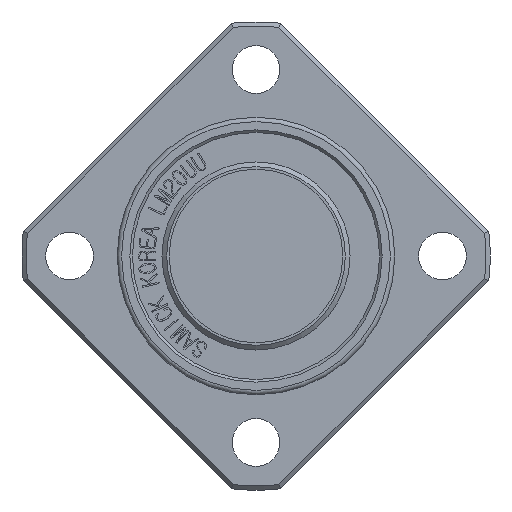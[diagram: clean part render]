
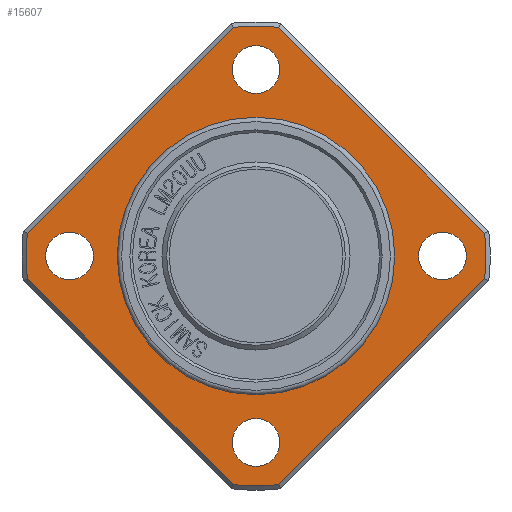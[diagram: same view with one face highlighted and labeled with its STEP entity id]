
A CAD part, front view. The second image highlights one B-rep face of the part: STEP entity #15607.
In plain terms, the highlighted planar face has unit normal (0, -1, 0).
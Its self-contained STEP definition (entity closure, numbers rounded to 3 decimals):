
#2209=FACE_BOUND('',#3238,.T.);
#2210=FACE_BOUND('',#3239,.T.);
#2211=FACE_BOUND('',#3240,.T.);
#2212=FACE_BOUND('',#3241,.T.);
#2213=FACE_BOUND('',#3242,.T.);
#2274=CIRCLE('',#16488,26.5);
#2277=CIRCLE('',#16496,26.5);
#2278=CIRCLE('',#16497,26.5);
#2279=CIRCLE('',#16498,26.5);
#2280=CIRCLE('',#16499,2.75);
#2281=CIRCLE('',#16500,2.75);
#2282=CIRCLE('',#16501,2.75);
#2283=CIRCLE('',#16502,2.75);
#2284=CIRCLE('',#16503,16.);
#2285=CIRCLE('',#16504,16.);
#2373=FACE_OUTER_BOUND('',#3237,.T.);
#3237=EDGE_LOOP('',(#10533,#10534,#10535,#10536,#10537,#10538,#10539,#10540));
#3238=EDGE_LOOP('',(#10541));
#3239=EDGE_LOOP('',(#10542));
#3240=EDGE_LOOP('',(#10543));
#3241=EDGE_LOOP('',(#10544));
#3242=EDGE_LOOP('',(#10545,#10546));
#4159=LINE('',#18701,#5303);
#4165=LINE('',#18745,#5309);
#4167=LINE('',#18751,#5311);
#4168=LINE('',#18755,#5312);
#5303=VECTOR('',#16843,10.);
#5309=VECTOR('',#16867,10.);
#5311=VECTOR('',#16873,10.);
#5312=VECTOR('',#16876,10.);
#6464=VERTEX_POINT('',#18696);
#6465=VERTEX_POINT('',#18700);
#6468=VERTEX_POINT('',#18710);
#6476=VERTEX_POINT('',#18741);
#6477=VERTEX_POINT('',#18748);
#6478=VERTEX_POINT('',#18750);
#6479=VERTEX_POINT('',#18752);
#6480=VERTEX_POINT('',#18754);
#6481=VERTEX_POINT('',#18757);
#6482=VERTEX_POINT('',#18759);
#6483=VERTEX_POINT('',#18761);
#6484=VERTEX_POINT('',#18763);
#6485=VERTEX_POINT('',#18765);
#6486=VERTEX_POINT('',#18766);
#8084=EDGE_CURVE('',#6464,#6465,#4159,.T.);
#8089=EDGE_CURVE('',#6464,#6468,#2274,.T.);
#8100=EDGE_CURVE('',#6476,#6468,#4165,.T.);
#8102=EDGE_CURVE('',#6476,#6477,#2277,.T.);
#8103=EDGE_CURVE('',#6478,#6477,#4167,.T.);
#8104=EDGE_CURVE('',#6478,#6479,#2278,.T.);
#8105=EDGE_CURVE('',#6480,#6479,#4168,.T.);
#8106=EDGE_CURVE('',#6480,#6465,#2279,.T.);
#8107=EDGE_CURVE('',#6481,#6481,#2280,.T.);
#8108=EDGE_CURVE('',#6482,#6482,#2281,.T.);
#8109=EDGE_CURVE('',#6483,#6483,#2282,.T.);
#8110=EDGE_CURVE('',#6484,#6484,#2283,.T.);
#8111=EDGE_CURVE('',#6485,#6486,#2284,.T.);
#8112=EDGE_CURVE('',#6486,#6485,#2285,.T.);
#10533=ORIENTED_EDGE('',*,*,#8084,.F.);
#10534=ORIENTED_EDGE('',*,*,#8089,.T.);
#10535=ORIENTED_EDGE('',*,*,#8100,.F.);
#10536=ORIENTED_EDGE('',*,*,#8102,.T.);
#10537=ORIENTED_EDGE('',*,*,#8103,.F.);
#10538=ORIENTED_EDGE('',*,*,#8104,.T.);
#10539=ORIENTED_EDGE('',*,*,#8105,.F.);
#10540=ORIENTED_EDGE('',*,*,#8106,.T.);
#10541=ORIENTED_EDGE('',*,*,#8107,.T.);
#10542=ORIENTED_EDGE('',*,*,#8108,.T.);
#10543=ORIENTED_EDGE('',*,*,#8109,.T.);
#10544=ORIENTED_EDGE('',*,*,#8110,.T.);
#10545=ORIENTED_EDGE('',*,*,#8111,.F.);
#10546=ORIENTED_EDGE('',*,*,#8112,.F.);
#15365=PLANE('',#16495);
#15607=ADVANCED_FACE('',(#2373,#2209,#2210,#2211,#2212,#2213),#15365,.T.);
#16488=AXIS2_PLACEMENT_3D('',#18714,#16849,#16850);
#16495=AXIS2_PLACEMENT_3D('',#18747,#16869,#16870);
#16496=AXIS2_PLACEMENT_3D('',#18749,#16871,#16872);
#16497=AXIS2_PLACEMENT_3D('',#18753,#16874,#16875);
#16498=AXIS2_PLACEMENT_3D('',#18756,#16877,#16878);
#16499=AXIS2_PLACEMENT_3D('',#18758,#16879,#16880);
#16500=AXIS2_PLACEMENT_3D('',#18760,#16881,#16882);
#16501=AXIS2_PLACEMENT_3D('',#18762,#16883,#16884);
#16502=AXIS2_PLACEMENT_3D('',#18764,#16885,#16886);
#16503=AXIS2_PLACEMENT_3D('',#18767,#16887,#16888);
#16504=AXIS2_PLACEMENT_3D('',#18768,#16889,#16890);
#16843=DIRECTION('',(0.707,0.,-0.707));
#16849=DIRECTION('center_axis',(0.,-1.,0.));
#16850=DIRECTION('ref_axis',(1.,0.,0.));
#16867=DIRECTION('',(0.707,0.,0.707));
#16869=DIRECTION('center_axis',(0.,-1.,0.));
#16870=DIRECTION('ref_axis',(0.,0.,-1.));
#16871=DIRECTION('center_axis',(0.,-1.,0.));
#16872=DIRECTION('ref_axis',(1.,0.,0.));
#16873=DIRECTION('',(-0.707,0.,0.707));
#16874=DIRECTION('center_axis',(0.,-1.,0.));
#16875=DIRECTION('ref_axis',(1.,0.,0.));
#16876=DIRECTION('',(-0.707,0.,-0.707));
#16877=DIRECTION('center_axis',(0.,-1.,0.));
#16878=DIRECTION('ref_axis',(1.,0.,0.));
#16879=DIRECTION('center_axis',(0.,1.,0.));
#16880=DIRECTION('ref_axis',(0.,0.,
1.));
#16881=DIRECTION('center_axis',(0.,1.,0.));
#16882=DIRECTION('ref_axis',(-1.,0.,0.));
#16883=DIRECTION('center_axis',(0.,1.,0.));
#16884=DIRECTION('ref_axis',(0.,0.,
-1.));
#16885=DIRECTION('center_axis',(0.,1.,0.));
#16886=DIRECTION('ref_axis',(1.,0.,0.));
#16887=DIRECTION('center_axis',(0.,-1.,0.));
#16888=DIRECTION('ref_axis',(1.,0.,0.));
#16889=DIRECTION('center_axis',(0.,-1.,0.));
#16890=DIRECTION('ref_axis',(1.,0.,0.));
#18696=CARTESIAN_POINT('',(2.621,14.5,26.37));
#18700=CARTESIAN_POINT('',(26.37,14.5,2.621));
#18701=CARTESIAN_POINT('',(24.496,14.5,4.496));
#18710=CARTESIAN_POINT('',(-2.621,14.5,26.37));
#18714=CARTESIAN_POINT('Origin',(0.,14.5,0.));
#18741=CARTESIAN_POINT('',(-26.37,14.5,2.621));
#18745=CARTESIAN_POINT('',(-4.496,14.5,24.496));
#18747=CARTESIAN_POINT('Origin',(16.,14.5,0.));
#18748=CARTESIAN_POINT('',(-26.37,14.5,-2.621));
#18749=CARTESIAN_POINT('Origin',(0.,14.5,0.));
#18750=CARTESIAN_POINT('',(-2.621,14.5,-26.37));
#18751=CARTESIAN_POINT('',(-16.496,14.5,-12.496));
#18752=CARTESIAN_POINT('',(2.621,14.5,-26.37));
#18753=CARTESIAN_POINT('Origin',(0.,14.5,0.));
#18754=CARTESIAN_POINT('',(26.37,14.5,-2.621));
#18755=CARTESIAN_POINT('',(12.496,14.5,-16.496));
#18756=CARTESIAN_POINT('Origin',(0.,14.5,0.));
#18757=CARTESIAN_POINT('',(0.,14.5,18.75));
#18758=CARTESIAN_POINT('Origin',(0.,14.5,21.5));
#18759=CARTESIAN_POINT('',(-18.75,14.5,0.));
#18760=CARTESIAN_POINT('Origin',(-21.5,14.5,0.));
#18761=CARTESIAN_POINT('',(0.,14.5,-18.75));
#18762=CARTESIAN_POINT('Origin',(0.,14.5,-21.5));
#18763=CARTESIAN_POINT('',(18.75,14.5,0.));
#18764=CARTESIAN_POINT('Origin',(21.5,14.5,0.));
#18765=CARTESIAN_POINT('',(16.,14.5,0.));
#18766=CARTESIAN_POINT('',(-16.,14.5,0.));
#18767=CARTESIAN_POINT('Origin',(0.,14.5,0.));
#18768=CARTESIAN_POINT('Origin',(0.,14.5,0.));
